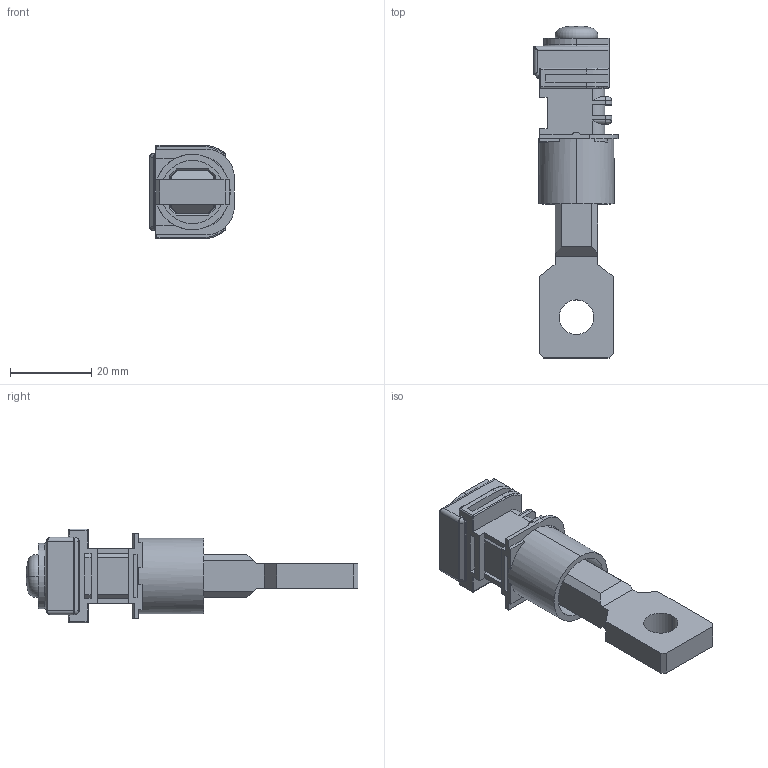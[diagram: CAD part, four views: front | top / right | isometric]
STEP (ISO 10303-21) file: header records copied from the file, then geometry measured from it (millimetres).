
FILE_DESCRIPTION((''),'2;1');
FILE_NAME('U1_SHORT_REAR_CONDUCTOR_ASSY_ASM','2018-06-04T',('HHI'),(''),'PRO/ENGINEER BY PARAMETRIC TECHNOLOGY CORPORATION, 2012453','PRO/ENGINEER BY PARAMETRIC TECHNOLOGY CORPORATION, 2012453','');
FILE_SCHEMA(('CONFIG_CONTROL_DESIGN'));
Length unit declared in the file: millimetre
Products named in the file (8): U1_REAR_CONNDUCTOR_CASE; U1_SHORT_REAR_CONDUCTOR; U1_REAR_CONNDUCTOR_PLATE; M6_L18_PH_SCREW; D6_ASSY2_SPRING_WASHER; D6_SMALL_PLAIN_WASHER; M6_L18_P_SW_PH_SCREW_ASM; U1_SHORT_REAR_CONDUCTOR_ASSY_ASM
Assembly tree (7 placements, depth 3):
  U1_SHORT_REAR_CONDUCTOR_ASSY_ASM
    U1_REAR_CONNDUCTOR_CASE
    U1_SHORT_REAR_CONDUCTOR
    U1_REAR_CONNDUCTOR_PLATE
    M6_L18_P_SW_PH_SCREW_ASM
      M6_L18_PH_SCREW
      D6_ASSY2_SPRING_WASHER
      D6_SMALL_PLAIN_WASHER
Bounding box: 20.8 x 81.48 x 23 mm (x, y, z)
Volume: 12153.1 mm3; surface area: 10700 mm2
Topology: 6 solids, 6 shells, 272 faces, 696 edges, 441 vertices
Faces by surface type: plane 167, cylinder 75, torus 13, bspline 8, sphere 6, cone 3
Entity records: 8714 total; most frequent: CARTESIAN_POINT 1913, ORIENTED_EDGE 1388, DIRECTION 1382, EDGE_CURVE 694, VECTOR 482, LINE 482, AXIS2_PLACEMENT_3D 450, VERTEX_POINT 441
